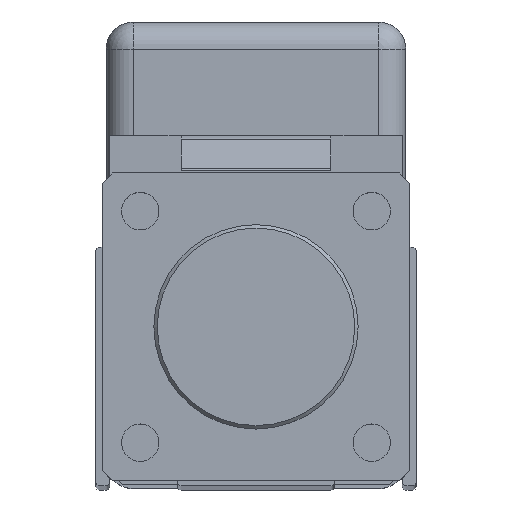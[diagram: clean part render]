
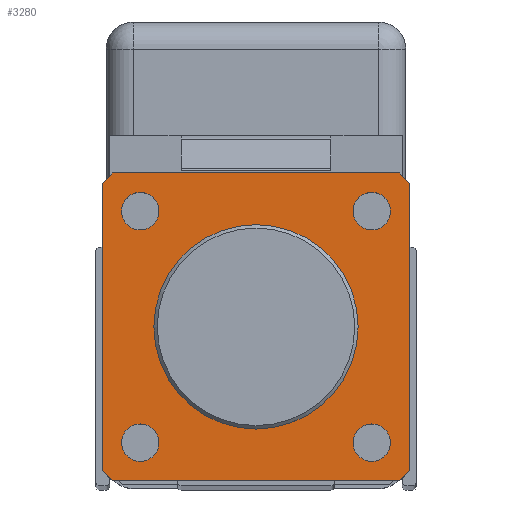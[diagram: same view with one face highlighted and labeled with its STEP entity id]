
A CAD part, top view. The second image highlights one B-rep face of the part: STEP entity #3280.
In plain terms, the highlighted planar face has unit normal (0, 0, 1).
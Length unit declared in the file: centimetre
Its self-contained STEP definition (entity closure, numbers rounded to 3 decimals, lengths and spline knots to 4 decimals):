
#460=VECTOR('',#4170,1.);
#463=VECTOR('',#4174,1.);
#465=VECTOR('',#4177,1.);
#468=VECTOR('',#4181,1.);
#471=VECTOR('',#4185,1.);
#474=VECTOR('',#4189,1.);
#478=VECTOR('',#4194,1.);
#481=VECTOR('',#4198,1.);
#703=LINE('',#5219,#460);
#706=LINE('',#5225,#463);
#708=LINE('',#5229,#465);
#711=LINE('',#5235,#468);
#714=LINE('',#5240,#471);
#717=LINE('',#5247,#474);
#721=LINE('',#5255,#478);
#724=LINE('',#5260,#481);
#912=CIRCLE('',#3540,1.5);
#925=CIRCLE('',#3564,0.275);
#927=CIRCLE('',#3567,0.275);
#928=CIRCLE('',#3569,0.275);
#929=CIRCLE('',#3571,0.275);
#1207=VERTEX_POINT('',#5161);
#1234=VERTEX_POINT('',#5220);
#1235=VERTEX_POINT('',#5221);
#1236=VERTEX_POINT('',#5226);
#1237=VERTEX_POINT('',#5230);
#1239=VERTEX_POINT('',#5236);
#1240=VERTEX_POINT('',#5241);
#1243=VERTEX_POINT('',#5248);
#1246=VERTEX_POINT('',#5256);
#1247=VERTEX_POINT('',#5263);
#1249=VERTEX_POINT('',#5268);
#1250=VERTEX_POINT('',#5271);
#1251=VERTEX_POINT('',#5274);
#1563=EDGE_CURVE('',#1207,#1207,#912,.T.);
#1592=EDGE_CURVE('',#1234,#1235,#703,.T.);
#1595=EDGE_CURVE('',#1235,#1236,#706,.T.);
#1597=EDGE_CURVE('',#1236,#1237,#708,.T.);
#1600=EDGE_CURVE('',#1237,#1239,#711,.T.);
#1603=EDGE_CURVE('',#1239,#1240,#714,.T.);
#1607=EDGE_CURVE('',#1240,#1243,#717,.T.);
#1611=EDGE_CURVE('',#1243,#1246,#721,.T.);
#1614=EDGE_CURVE('',#1246,#1234,#724,.T.);
#1615=EDGE_CURVE('',#1247,#1247,#925,.T.);
#1617=EDGE_CURVE('',#1249,#1249,#927,.T.);
#1618=EDGE_CURVE('',#1250,#1250,#928,.T.);
#1619=EDGE_CURVE('',#1251,#1251,#929,.T.);
#2255=ORIENTED_EDGE('',*,*,#1563,.T.);
#2256=ORIENTED_EDGE('',*,*,#1619,.F.);
#2257=ORIENTED_EDGE('',*,*,#1618,.F.);
#2258=ORIENTED_EDGE('',*,*,#1617,.F.);
#2259=ORIENTED_EDGE('',*,*,#1615,.F.);
#2260=ORIENTED_EDGE('',*,*,#1592,.F.);
#2261=ORIENTED_EDGE('',*,*,#1614,.F.);
#2262=ORIENTED_EDGE('',*,*,#1611,.F.);
#2263=ORIENTED_EDGE('',*,*,#1607,.F.);
#2264=ORIENTED_EDGE('',*,*,#1603,.F.);
#2265=ORIENTED_EDGE('',*,*,#1600,.F.);
#2266=ORIENTED_EDGE('',*,*,#1597,.F.);
#2267=ORIENTED_EDGE('',*,*,#1595,.F.);
#2797=EDGE_LOOP('',(#2255));
#2798=EDGE_LOOP('',(#2256));
#2799=EDGE_LOOP('',(#2257));
#2800=EDGE_LOOP('',(#2258));
#2801=EDGE_LOOP('',(#2259));
#2802=EDGE_LOOP('',(#2260,#2261,#2262,#2263,#2264,#2265,#2266,#2267));
#3072=FACE_BOUND('',#2797,.T.);
#3073=FACE_BOUND('',#2798,.T.);
#3074=FACE_BOUND('',#2799,.T.);
#3075=FACE_BOUND('',#2800,.T.);
#3076=FACE_BOUND('',#2801,.T.);
#3077=FACE_BOUND('',#2802,.T.);
#3280=ADVANCED_FACE('',(#3072,#3073,#3074,#3075,#3076,#3077),#5605,.T.);
#3540=AXIS2_PLACEMENT_3D('',#5160,#4125,#4126);
#3564=AXIS2_PLACEMENT_3D('',#5262,#4201,#4202);
#3567=AXIS2_PLACEMENT_3D('',#5267,#4207,#4208);
#3569=AXIS2_PLACEMENT_3D('',#5270,#4211,#4212);
#3571=AXIS2_PLACEMENT_3D('',#5273,#4215,#4216);
#3572=AXIS2_PLACEMENT_3D('',#5275,#4217,$);
#4125=DIRECTION('',(0.,0.,-1.));
#4126=DIRECTION('',(1.5,0.,0.));
#4170=DIRECTION('',(1.,0.,0.));
#4174=DIRECTION('',(0.707,-0.707,0.));
#4177=DIRECTION('',(0.,-1.,0.));
#4181=DIRECTION('',(-0.707,-0.707,0.));
#4185=DIRECTION('',(-1.,0.,0.));
#4189=DIRECTION('',(-0.707,0.707,0.));
#4194=DIRECTION('',(0.,1.,0.));
#4198=DIRECTION('',(0.707,0.707,0.));
#4201=DIRECTION('',(0.,0.,1.));
#4202=DIRECTION('',(0.275,0.,0.));
#4207=DIRECTION('',(0.,0.,1.));
#4208=DIRECTION('',(0.275,0.,0.));
#4211=DIRECTION('',(0.,0.,1.));
#4212=DIRECTION('',(0.275,0.,0.));
#4215=DIRECTION('',(0.,0.,1.));
#4216=DIRECTION('',(0.275,0.,0.));
#4217=DIRECTION('',(0.,0.,1.));
#5160=CARTESIAN_POINT('',(0.,0.,38.));
#5161=CARTESIAN_POINT('',(1.5,0.,38.));
#5219=CARTESIAN_POINT('',(2.11,2.26,38.));
#5220=CARTESIAN_POINT('',(-2.11,2.26,38.));
#5221=CARTESIAN_POINT('',(2.11,2.26,38.));
#5225=CARTESIAN_POINT('',(2.26,2.11,38.));
#5226=CARTESIAN_POINT('',(2.26,2.11,38.));
#5229=CARTESIAN_POINT('',(2.26,-2.11,38.));
#5230=CARTESIAN_POINT('',(2.26,-2.11,38.));
#5235=CARTESIAN_POINT('',(2.11,-2.26,38.));
#5236=CARTESIAN_POINT('',(2.11,-2.26,38.));
#5240=CARTESIAN_POINT('',(-2.11,-2.26,38.));
#5241=CARTESIAN_POINT('',(-2.11,-2.26,38.));
#5247=CARTESIAN_POINT('',(-2.26,-2.11,38.));
#5248=CARTESIAN_POINT('',(-2.26,-2.11,38.));
#5255=CARTESIAN_POINT('',(-2.26,2.11,38.));
#5256=CARTESIAN_POINT('',(-2.26,2.11,38.));
#5260=CARTESIAN_POINT('',(-2.11,2.26,38.));
#5262=CARTESIAN_POINT('',(-1.7,-1.7,38.));
#5263=CARTESIAN_POINT('',(-1.425,-1.7,38.));
#5267=CARTESIAN_POINT('',(-1.7,1.7,38.));
#5268=CARTESIAN_POINT('',(-1.425,1.7,38.));
#5270=CARTESIAN_POINT('',(1.7,1.7,38.));
#5271=CARTESIAN_POINT('',(1.975,1.7,38.));
#5273=CARTESIAN_POINT('',(1.7,-1.7,38.));
#5274=CARTESIAN_POINT('',(1.975,-1.7,38.));
#5275=CARTESIAN_POINT('',(0.,0.,38.));
#5605=PLANE('',#3572);
